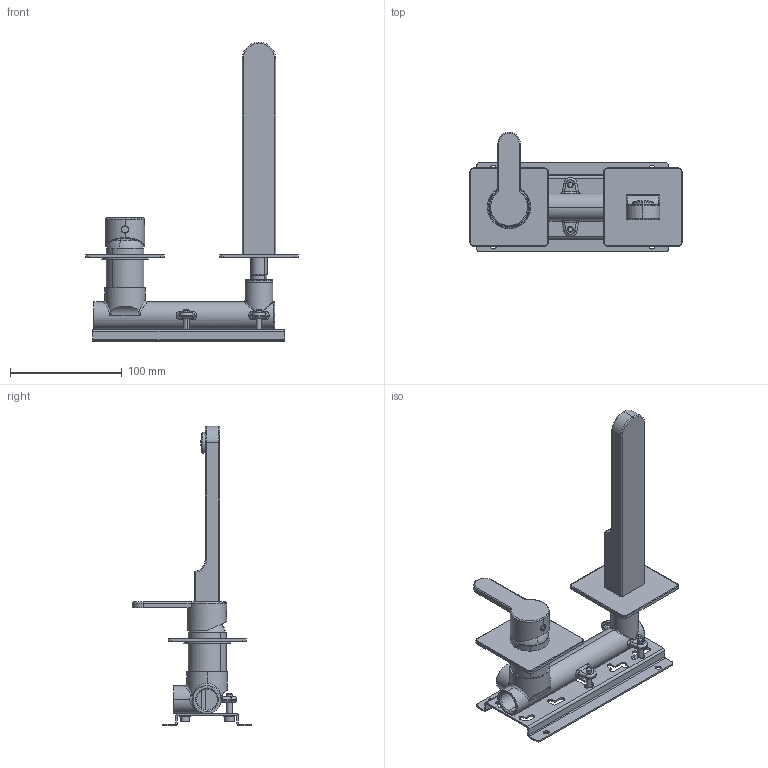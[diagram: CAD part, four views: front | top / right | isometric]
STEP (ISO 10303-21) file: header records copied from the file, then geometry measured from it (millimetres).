
FILE_DESCRIPTION (( 'STEP AP203' ), '1' );
FILE_NAME ('MKN84.STEP', '2023-12-20T13:43:44', ( '' ), ( '' ), 'SwSTEP 2.0', 'SolidWorks 2023', '' );
FILE_SCHEMA (( 'CONFIG_CONTROL_DESIGN' ));
Length unit declared in the file: millimetre
Products named in the file (24): C24.0120.00.1; C24.1923.00.1; C11.10.0019; C47.00.0023.01; C10.00.0022; C21.1428.00.0; C11.12.0020; C25.2348.00.1; GRANCO M5x6 ACCIAIO; AERA24X1CS; C12.00.0008; GRANCO M4x4 ACCIAIO; EU0855_1; C24.1955.00.1; TSPEI M3x 8 ACC. INOX; ISN84; OR3459262NBR; C24.2580.00.0; C24.1560.00.0; C12.00.0051; C18.23.0004; MKN84; C24.2660.00; C24.2658.00
Assembly tree (32 placements, depth 3):
  MKN84
    GRANCO M4x4 ACCIAIO
    OR3459262NBR
    GRANCO M5x6 ACCIAIO
    C47.00.0023.01
    EU0855_1
    C24.1923.00.1
    TSPEI M3x 8 ACC. INOX  x2
    AERA24X1CS
    ISN84
      C24.1955.00.1
      C24.0120.00.1
      C21.1428.00.0
      C12.00.0051  x3
      C12.00.0008
      C18.23.0004
      C24.1560.00.0
      C24.2580.00.0
      C10.00.0022
      C25.2348.00.1
      C11.10.0019  x4
      C11.12.0020  x4
    C24.2660.00
    C24.2658.00
Bounding box: 190 x 107 x 268.5 mm (x, y, z)
Volume: 237296.7 mm3; surface area: 157083.7 mm2
Topology: 33 solids, 33 shells, 1169 faces, 2743 edges, 1688 vertices
Faces by surface type: cylinder 455, plane 397, cone 135, torus 130, bspline 50, sphere 2
Entity records: 37767 total; most frequent: CARTESIAN_POINT 10603, DIRECTION 5348, ORIENTED_EDGE 4932, EDGE_CURVE 2466, AXIS2_PLACEMENT_3D 2125, VERTEX_POINT 1528, EDGE_LOOP 1180, LINE 1098
